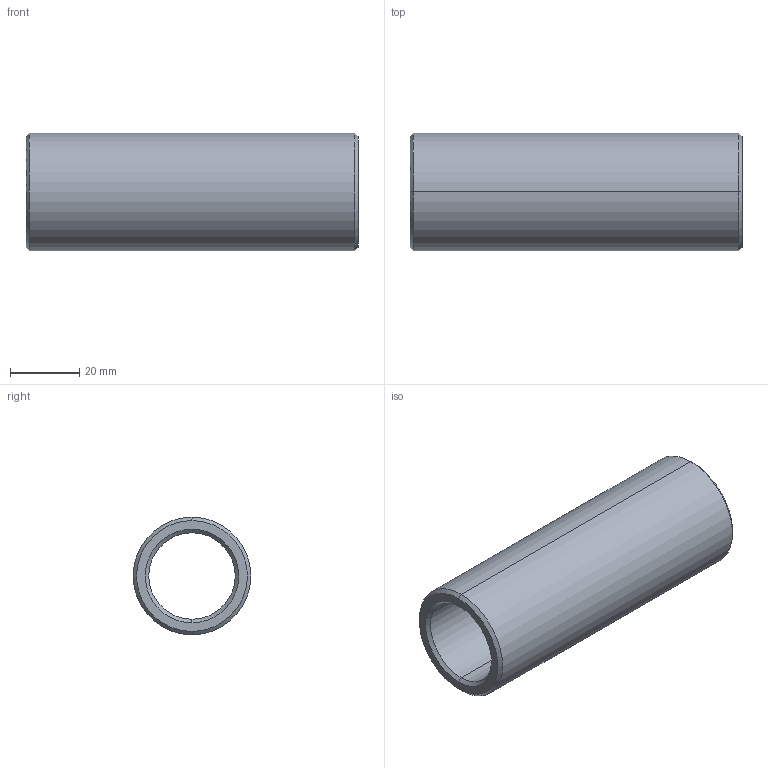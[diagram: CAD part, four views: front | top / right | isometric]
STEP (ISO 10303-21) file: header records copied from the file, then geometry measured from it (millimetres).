
FILE_DESCRIPTION(('CATIA V5 STEP Exchange'),'2;1');
FILE_NAME('C:\Users\Utente\Desktop\IO LAVORO\3D X SITO CF\X SITO\PLASTICA\352\352-25X96.stp','2021-04-14T15:23:14+00:00',('none'),('none'),'CATIA Version 5 Release 20 GA (IN-10)','CATIA V5 STEP AP203','none');
FILE_SCHEMA(('CONFIG_CONTROL_DESIGN'));
Length unit declared in the file: millimetre
Products named in the file (1): 352-25X96
Bounding box: 96 x 34 x 34 mm (x, y, z)
Volume: 39874.3 mm3; surface area: 18422.4 mm2
Topology: 1 solids, 1 shells, 14 faces, 44 edges, 32 vertices
Faces by surface type: cone 6, cylinder 4, plane 2, torus 2
Entity records: 634 total; most frequent: CARTESIAN_POINT 203, ORIENTED_EDGE 88, DIRECTION 64, EDGE_CURVE 44, AXIS2_PLACEMENT_3D 41, VERTEX_POINT 32, CIRCLE 26, EDGE_LOOP 16
